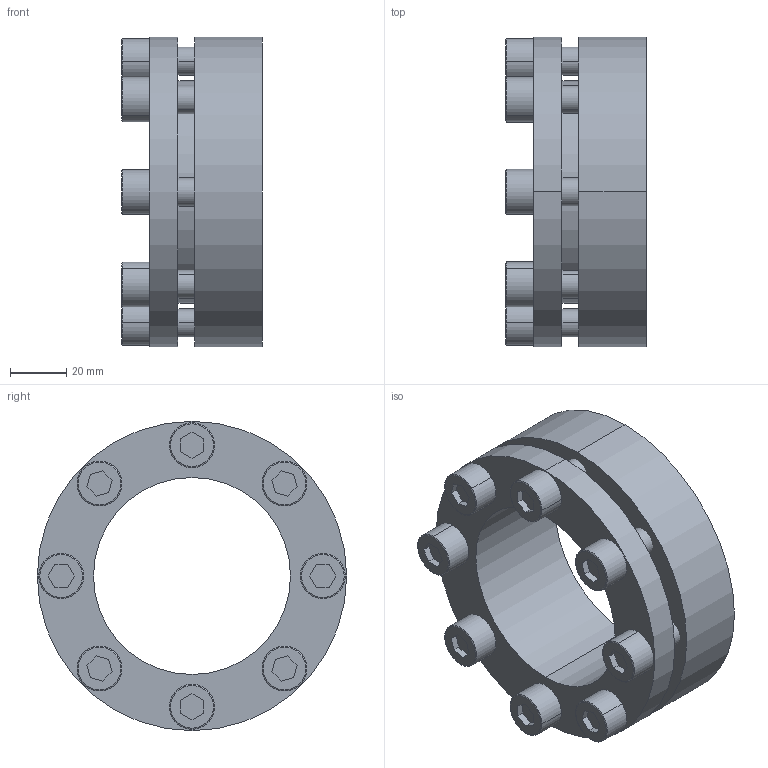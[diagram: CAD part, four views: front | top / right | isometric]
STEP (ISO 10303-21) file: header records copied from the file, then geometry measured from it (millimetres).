
FILE_DESCRIPTION (( 'STEP AP203' ), '1' );
FILE_NAME ('SDS-70.step', '2009-09-29T16:22:12', ( 'USER' ), ( 'HOME' ), 'SwSTEP 2.0', 'SolidWorks 2007', '' );
FILE_SCHEMA (( 'CONFIG_CONTROL_DESIGN' ));
Length unit declared in the file: millimetre
Products named in the file (1): SDS-70
Bounding box: 50 x 110 x 110 mm (x, y, z)
Volume: 219622.7 mm3; surface area: 64225.5 mm2
Topology: 9 solids, 9 shells, 172 faces, 392 edges, 256 vertices
Faces by surface type: plane 84, cylinder 72, cone 16
Entity records: 4997 total; most frequent: DIRECTION 898, CARTESIAN_POINT 821, ORIENTED_EDGE 784, EDGE_CURVE 392, AXIS2_PLACEMENT_3D 333, VERTEX_POINT 256, VECTOR 232, LINE 232
